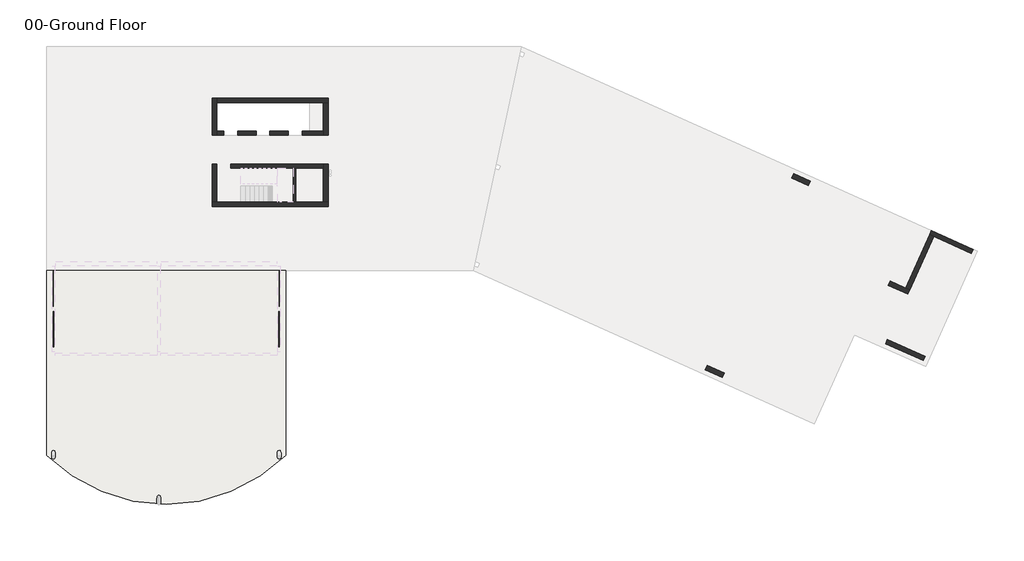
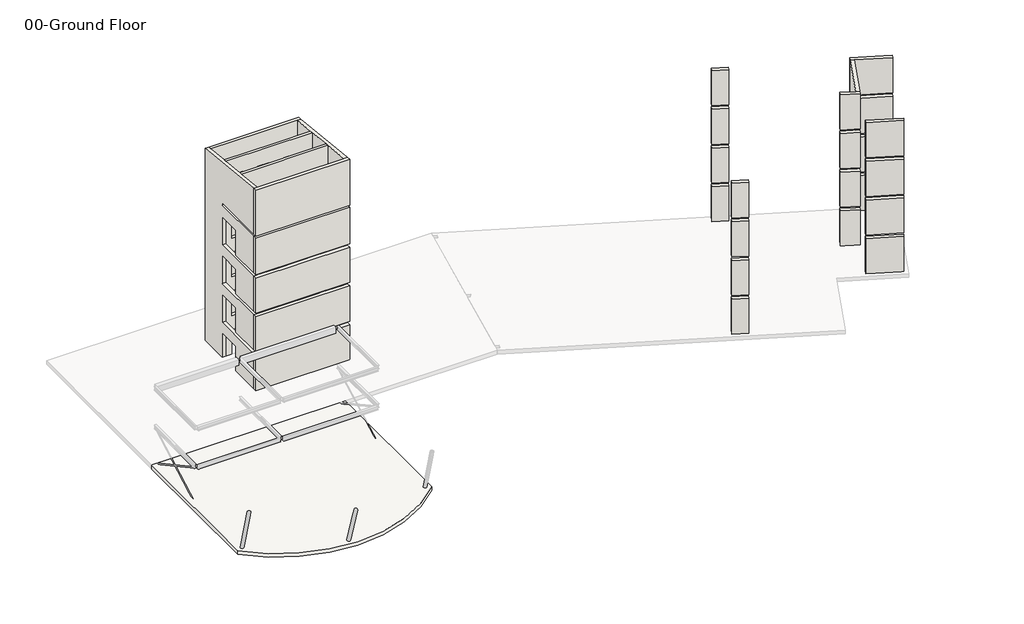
# One storey, part 1 of 2: 13 walls, 1 slab.
"""IFC4 building model written with IfcOpenShell, lengths in millimetres."""

from ifc_helpers import new_model, si_unit, frame, origin, origin_with_axes, place, context, project, spatial, polyline, circle_curve, outline, extrude, faceted_brep, element, save
from ifc_brep_helpers import plane_surface, cylinder_surface, advanced_brep

model = new_model("IFC4")

# Units and contexts
model_context = context("Model", 3, world=origin())
ifc_project = project(units=[si_unit("LENGTHUNIT", "METRE", prefix="MILLI")], contexts=[model_context])

# Site, building, storey
site = spatial("IfcSite", under=ifc_project)
building = spatial("IfcBuilding", under=site)
storey = spatial("IfcBuildingStorey", under=building, Name="00-Ground Floor", Elevation=0.0)

# Slab
placement = place(None, origin())
element("IfcSlab", 1, ObjectType="RC Slab 12\"", at=placement, inside=storey, context=model_context, shape_type="AdvancedBrep", body=[
    advanced_brep(
    [(15455.9, -26723.3402351, -304.8), (-457.2, -26723.3402351, -304.8), (-457.2, -14452.6, -304.8), (457.2, -14452.6, -304.8), (14541.5, -14452.6, -304.8), (15455.9, -14452.6, -304.8), (15455.9, -26723.3402351, 0.0), (15455.9, -14452.6, 0.0), (-457.2, -14452.6, 0.0), (-457.2, -26723.3402351, 0.0)],
    [
        (0, 1, circle_curve(frame((7499.35, -18686.6508475, -304.8), z_axis=(0.0, 0.0, -1.0), x_axis=(1.0, 0.0, 0.0)), 11309.0699979)),
        (1, 2),
        (2, 3),
        (3, 4),
        (4, 5),
        (5, 0),
        (6, 7),
        (7, 8),
        (8, 9),
        (9, 6, circle_curve(frame((7499.35, -18686.6508475, 0.0), z_axis=(0.0, 0.0, 1.0), x_axis=(1.0, 0.0, 0.0)), 11309.0699979)),
        (0, 6),
        (9, 1),
        (8, 2),
        (7, 5),
    ],
    [
        plane_surface(frame((18808.4199979, -18686.6508475, -304.8), z_axis=(0.0, 0.0, -1.0), x_axis=(0.0, -1.0, 0.0))),
        plane_surface(frame((18808.4199979, -18686.6508475, 0.0), z_axis=(0.0, 0.0, 1.0), x_axis=(0.0, 1.0, 0.0))),
        cylinder_surface(frame((7499.35, -18686.6508475, 0.0), z_axis=(0.0, 0.0, -1.0), x_axis=(1.0, 0.0, 0.0)), 11309.0699979),
        plane_surface(frame((-457.2, -26723.3402351, -304.8), z_axis=(-1.0, 0.0, 0.0), x_axis=(0.0, 0.0, 1.0))),
        plane_surface(frame((-457.2, -14452.6, -304.8), z_axis=(0.0, 1.0, 0.0), x_axis=(0.0, 0.0, 1.0))),
        plane_surface(frame((15455.9, -14452.6, -304.8), z_axis=(1.0, 0.0, 0.0), x_axis=(0.0, 0.0, 1.0))),
    ],
    [
        (0, [[1, 2, 3, 4, 5, 6]]),
        (1, [[7, 8, 9, 10]]),
        (2, [[-1, 11, -10, 12]]),
        (3, [[-2, -12, -9, 13]]),
        (4, [[-5, -4, -3, -13, -8, 14]]),
        (5, [[-6, -14, -7, -11]]),
    ],
),
])

# Walls
element("IfcWall", 2, ObjectType="6\" Blockwork with render", at=placement, inside=storey, context=model_context, shape_type="SweptSolid", body=[
    extrude(outline(polyline([(16103.6, -7632.7), (16103.6, -9893.3), (15951.2, -9893.3), (15951.2, -7632.7), (16103.6, -7632.7)])), origin_with_axes(), (0.0, 0.0, 1.0), 3048.0),
])
element("IfcWall", 3, ObjectType="RC Wall 10\"", at=placement, inside=storey, context=model_context, shape_type="Brep", body=[
    faceted_brep([(17945.1, -5422.9, 16899.0824764), (10858.5, -5422.9, 16899.0824764), (10858.5, -5422.9, 13411.2), (10858.5, -5422.9, 13208.0), (10858.5, -5422.9, 12192.0), (10858.5, -5422.9, 10058.4), (10858.5, -5422.9, 9753.6), (10858.5, -5422.9, 8839.2), (10858.5, -5422.9, 6705.6), (10858.5, -5422.9, 6400.8), (10858.5, -5422.9, 5486.4), (10858.5, -5422.9, 3352.8), (10858.5, -5422.9, 3048.0), (10858.5, -5422.9, 2133.6), (10858.5, -5422.9, 0.0), (11328.4, -5422.9, 0.0), (11328.4, -5422.9, 2133.6), (12242.8, -5422.9, 2133.6), (12242.8, -5422.9, 0.0), (13474.7, -5422.9, 0.0), (13474.7, -5422.9, 2133.6), (14389.1, -5422.9, 2133.6), (14389.1, -5422.9, 0.0), (15608.3, -5422.9, 0.0), (15608.3, -5422.9, 2133.6), (16522.7, -5422.9, 2133.6), (16522.7, -5422.9, 0.0), (17945.1, -5422.9, 0.0), (17945.1, -5422.9, 2133.6), (17945.1, -5422.9, 3048.0), (17005.3, -5422.9, 3048.0), (17005.3, -5422.9, 3352.8), (17945.1, -5422.9, 3352.8), (17945.1, -5422.9, 5486.4), (17945.1, -5422.9, 6400.8), (17005.3, -5422.9, 6400.8), (17005.3, -5422.9, 6705.6), (17945.1, -5422.9, 6705.6), (17945.1, -5422.9, 8839.2), (17945.1, -5422.9, 9753.6), (17005.3, -5422.9, 9753.6), (17005.3, -5422.9, 10058.4), (17945.1, -5422.9, 10058.4), (17945.1, -5422.9, 12192.0), (17945.1, -5422.9, 13208.0), (17005.3, -5422.9, 13208.0), (17005.3, -5422.9, 13411.2), (17945.1, -5422.9, 13411.2), (17945.1, -5422.9, 15544.8), (15608.3, -5422.9, 3352.8), (15608.3, -5422.9, 5486.4), (16522.7, -5422.9, 5486.4), (16522.7, -5422.9, 3352.8), (13474.7, -5422.9, 3352.8), (13474.7, -5422.9, 5486.4), (14389.1, -5422.9, 5486.4), (14389.1, -5422.9, 3352.8), (11328.4, -5422.9, 3352.8), (11328.4, -5422.9, 5486.4), (12242.8, -5422.9, 5486.4), (12242.8, -5422.9, 3352.8), (15608.3, -5422.9, 6705.6), (15608.3, -5422.9, 8839.2), (16522.7, -5422.9, 8839.2), (16522.7, -5422.9, 6705.6), (13474.7, -5422.9, 6705.6), (13474.7, -5422.9, 8839.2), (14389.1, -5422.9, 8839.2), (14389.1, -5422.9, 6705.6), (11328.4, -5422.9, 6705.6), (11328.4, -5422.9, 8839.2), (12242.8, -5422.9, 8839.2), (12242.8, -5422.9, 6705.6), (15608.3, -5422.9, 10058.4), (15608.3, -5422.9, 12192.0), (16522.7, -5422.9, 12192.0), (16522.7, -5422.9, 10058.4), (13474.7, -5422.9, 10058.4), (13474.7, -5422.9, 12192.0), (14389.1, -5422.9, 12192.0), (14389.1, -5422.9, 10058.4), (11328.4, -5422.9, 10058.4), (11328.4, -5422.9, 12192.0), (12242.8, -5422.9, 12192.0), (12242.8, -5422.9, 10058.4), (15608.3, -5422.9, 13411.2), (15608.3, -5422.9, 15544.8), (16522.7, -5422.9, 15544.8), (16522.7, -5422.9, 13411.2), (13474.7, -5422.9, 13411.2), (13474.7, -5422.9, 15544.8), (14389.1, -5422.9, 15544.8), (14389.1, -5422.9, 13411.2), (11328.4, -5422.9, 13411.2), (11328.4, -5422.9, 15544.8), (12242.8, -5422.9, 15544.8), (12242.8, -5422.9, 13411.2), (10858.5, -5168.9, 0.0), (10858.5, -5168.9, 16872.3860006), (12738.1, -5168.9, 16872.3860006), (12992.1, -5168.9, 16872.3860006), (14871.7, -5168.9, 16872.3860006), (15125.7, -5168.9, 16872.3860006), (17945.1, -5168.9, 16872.3860006), (17945.1, -5168.9, 13411.2), (17005.3, -5168.9, 13411.2), (17005.3, -5168.9, 13208.0), (17945.1, -5168.9, 13208.0), (17945.1, -5168.9, 10058.4), (17005.3, -5168.9, 10058.4), (17005.3, -5168.9, 9753.6), (17945.1, -5168.9, 9753.6), (17945.1, -5168.9, 6705.6), (17005.3, -5168.9, 6705.6), (17005.3, -5168.9, 6400.8), (17945.1, -5168.9, 6400.8), (17945.1, -5168.9, 3352.8), (17005.3, -5168.9, 3352.8), (17005.3, -5168.9, 3048.0), (17945.1, -5168.9, 3048.0), (17945.1, -5168.9, 0.0), (16522.7, -5168.9, 0.0), (16522.7, -5168.9, 2133.6), (15608.3, -5168.9, 2133.6), (15608.3, -5168.9, 0.0), (14389.1, -5168.9, 0.0), (14389.1, -5168.9, 2133.6), (13474.7, -5168.9, 2133.6), (13474.7, -5168.9, 0.0), (12242.8, -5168.9, 0.0), (12242.8, -5168.9, 2133.6), (11328.4, -5168.9, 2133.6), (11328.4, -5168.9, 0.0), (15608.3, -5168.9, 5486.4), (15608.3, -5168.9, 3352.8), (16522.7, -5168.9, 3352.8), (16522.7, -5168.9, 5486.4), (13474.7, -5168.9, 5486.4), (13474.7, -5168.9, 3352.8), (14389.1, -5168.9, 3352.8), (14389.1, -5168.9, 5486.4), (11328.4, -5168.9, 5486.4), (11328.4, -5168.9, 3352.8), (12242.8, -5168.9, 3352.8), (12242.8, -5168.9, 5486.4), (15608.3, -5168.9, 8839.2), (15608.3, -5168.9, 6705.6), (16522.7, -5168.9, 6705.6), (16522.7, -5168.9, 8839.2), (13474.7, -5168.9, 8839.2), (13474.7, -5168.9, 6705.6), (14389.1, -5168.9, 6705.6), (14389.1, -5168.9, 8839.2), (11328.4, -5168.9, 8839.2), (11328.4, -5168.9, 6705.6), (12242.8, -5168.9, 6705.6), (12242.8, -5168.9, 8839.2), (15608.3, -5168.9, 12192.0), (15608.3, -5168.9, 10058.4), (16522.7, -5168.9, 10058.4), (16522.7, -5168.9, 12192.0), (13474.7, -5168.9, 12192.0), (13474.7, -5168.9, 10058.4), (14389.1, -5168.9, 10058.4), (14389.1, -5168.9, 12192.0), (11328.4, -5168.9, 12192.0), (11328.4, -5168.9, 10058.4), (12242.8, -5168.9, 10058.4), (12242.8, -5168.9, 12192.0), (15608.3, -5168.9, 15544.8), (15608.3, -5168.9, 13411.2), (16522.7, -5168.9, 13411.2), (16522.7, -5168.9, 15544.8), (13474.7, -5168.9, 15544.8), (13474.7, -5168.9, 13411.2), (14389.1, -5168.9, 13411.2), (14389.1, -5168.9, 15544.8), (11328.4, -5168.9, 15544.8), (11328.4, -5168.9, 13411.2), (12242.8, -5168.9, 13411.2), (12242.8, -5168.9, 15544.8)], [[[0, 1, 2, 3, 4, 5, 6, 7, 8, 9, 10, 11, 12, 13, 14, 15, 16, 17, 18, 19, 20, 21, 22, 23, 24, 25, 26, 27, 28, 29, 30, 31, 32, 33, 34, 35, 36, 37, 38, 39, 40, 41, 42, 43, 44, 45, 46, 47, 48], [49, 50, 51, 52], [53, 54, 55, 56], [57, 58, 59, 60], [61, 62, 63, 64], [65, 66, 67, 68], [69, 70, 71, 72], [73, 74, 75, 76], [77, 78, 79, 80], [81, 82, 83, 84], [85, 86, 87, 88], [89, 90, 91, 92], [93, 94, 95, 96]], [[97, 98, 99, 100, 101, 102, 103, 104, 105, 106, 107, 108, 109, 110, 111, 112, 113, 114, 115, 116, 117, 118, 119, 120, 121, 122, 123, 124, 125, 126, 127, 128, 129, 130, 131, 132], [133, 134, 135, 136], [137, 138, 139, 140], [141, 142, 143, 144], [145, 146, 147, 148], [149, 150, 151, 152], [153, 154, 155, 156], [157, 158, 159, 160], [161, 162, 163, 164], [165, 166, 167, 168], [169, 170, 171, 172], [173, 174, 175, 176], [177, 178, 179, 180]], [[14, 97, 132, 15]], [[120, 27, 26, 121]], [[18, 129, 128, 19]], [[22, 125, 124, 23]], [[98, 97, 14, 13, 12, 11, 10, 9, 8, 7, 6, 5, 4, 3, 2, 1]], [[27, 120, 119, 29, 28]], [[103, 0, 48, 47, 104]], [[107, 44, 43, 42, 108]], [[111, 39, 38, 37, 112]], [[115, 34, 33, 32, 116]], [[1, 0, 103, 102, 101, 100, 99, 98]], [[132, 131, 16, 15]], [[130, 129, 18, 17]], [[131, 130, 17, 16]], [[128, 127, 20, 19]], [[126, 125, 22, 21]], [[127, 126, 21, 20]], [[124, 123, 24, 23]], [[122, 121, 26, 25]], [[123, 122, 25, 24]], [[134, 133, 50, 49]], [[135, 134, 49, 52]], [[136, 135, 52, 51]], [[133, 136, 51, 50]], [[138, 137, 54, 53]], [[139, 138, 53, 56]], [[140, 139, 56, 55]], [[137, 140, 55, 54]], [[142, 141, 58, 57]], [[143, 142, 57, 60]], [[144, 143, 60, 59]], [[141, 144, 59, 58]], [[146, 145, 62, 61]], [[147, 146, 61, 64]], [[148, 147, 64, 63]], [[145, 148, 63, 62]], [[150, 149, 66, 65]], [[151, 150, 65, 68]], [[152, 151, 68, 67]], [[149, 152, 67, 66]], [[154, 153, 70, 69]], [[155, 154, 69, 72]], [[156, 155, 72, 71]], [[153, 156, 71, 70]], [[158, 157, 74, 73]], [[159, 158, 73, 76]], [[160, 159, 76, 75]], [[157, 160, 75, 74]], [[162, 161, 78, 77]], [[163, 162, 77, 80]], [[164, 163, 80, 79]], [[161, 164, 79, 78]], [[166, 165, 82, 81]], [[167, 166, 81, 84]], [[168, 167, 84, 83]], [[165, 168, 83, 82]], [[170, 169, 86, 85]], [[171, 170, 85, 88]], [[172, 171, 88, 87]], [[169, 172, 87, 86]], [[174, 173, 90, 89]], [[175, 174, 89, 92]], [[176, 175, 92, 91]], [[173, 176, 91, 90]], [[178, 177, 94, 93]], [[179, 178, 93, 96]], [[180, 179, 96, 95]], [[177, 180, 95, 94]], [[106, 45, 44, 107]], [[46, 105, 104, 47]], [[45, 106, 105, 46]], [[110, 40, 39, 111]], [[41, 109, 108, 42]], [[40, 110, 109, 41]], [[114, 35, 34, 115]], [[36, 113, 112, 37]], [[35, 114, 113, 36]], [[118, 30, 29, 119]], [[31, 117, 116, 32]], [[30, 118, 117, 31]]]),
])
element("IfcWall", 4, ObjectType="RC Wall 10\"", at=placement, inside=storey, context=model_context, shape_type="Brep", body=[
    faceted_brep([(17945.1, -7632.7, 17131.3418155), (10858.5, -7632.7, 17131.3418155), (10858.5, -7632.7, 15544.8), (11772.9, -7632.7, 15544.8), (11772.9, -7632.7, 13411.2), (15951.2, -7632.7, 13411.2), (16103.6, -7632.7, 13411.2), (17945.1, -7632.7, 13411.2), (10858.5, -7378.7, 17104.6453397), (17945.1, -7378.7, 17104.6453397), (17945.1, -7378.7, 15544.8), (17945.1, -7378.7, 13411.2), (11772.9, -7378.7, 13411.2), (11772.9, -7378.7, 15544.8), (10858.5, -7378.7, 15544.8)], [[[0, 1, 2, 3, 4, 5, 6, 7]], [[8, 9, 10, 11, 12, 13, 14]], [[1, 8, 14, 2]], [[9, 0, 7, 11, 10]], [[1, 0, 9, 8]], [[13, 12, 4, 3]], [[14, 13, 3, 2]], [[7, 6, 5, 4, 12, 11]]]),
    faceted_brep([(11772.9, -7632.7, 0.0), (15951.2, -7632.7, 0.0), (16103.6, -7632.7, 0.0), (17945.1, -7632.7, 0.0), (17945.1, -7632.7, 13208.0), (16103.6, -7632.7, 13208.0), (15951.2, -7632.7, 13208.0), (10858.5, -7632.7, 13208.0), (10858.5, -7632.7, 12192.0), (11772.9, -7632.7, 12192.0), (11772.9, -7632.7, 10058.4), (10858.5, -7632.7, 10058.4), (10858.5, -7632.7, 8839.2), (11772.9, -7632.7, 8839.2), (11772.9, -7632.7, 6705.6), (10858.5, -7632.7, 6705.6), (10858.5, -7632.7, 5486.4), (11772.9, -7632.7, 5486.4), (11772.9, -7632.7, 3352.8), (10858.5, -7632.7, 3352.8), (10858.5, -7632.7, 2133.6), (11772.9, -7632.7, 2133.6), (17945.1, -7378.7, 0.0), (11772.9, -7378.7, 0.0), (11772.9, -7378.7, 2133.6), (10858.5, -7378.7, 2133.6), (10858.5, -7378.7, 3352.8), (11772.9, -7378.7, 3352.8), (11772.9, -7378.7, 5486.4), (10858.5, -7378.7, 5486.4), (10858.5, -7378.7, 6705.6), (11772.9, -7378.7, 6705.6), (11772.9, -7378.7, 8839.2), (10858.5, -7378.7, 8839.2), (10858.5, -7378.7, 10058.4), (11772.9, -7378.7, 10058.4), (11772.9, -7378.7, 12192.0), (10858.5, -7378.7, 12192.0), (10858.5, -7378.7, 13208.0), (17945.1, -7378.7, 13208.0), (17945.1, -7378.7, 12192.0), (17945.1, -7378.7, 10058.4), (17945.1, -7378.7, 8839.2), (17945.1, -7378.7, 6705.6), (17945.1, -7378.7, 5486.4), (17945.1, -7378.7, 3352.8), (17945.1, -7378.7, 2133.6)], [[[0, 1, 2, 3, 4, 5, 6, 7, 8, 9, 10, 11, 12, 13, 14, 15, 16, 17, 18, 19, 20, 21]], [[22, 23, 24, 25, 26, 27, 28, 29, 30, 31, 32, 33, 34, 35, 36, 37, 38, 39, 40, 41, 42, 43, 44, 45, 46]], [[22, 3, 2, 1, 0, 23]], [[25, 20, 19, 26]], [[29, 16, 15, 30]], [[33, 12, 11, 34]], [[37, 8, 7, 38]], [[3, 22, 46, 45, 44, 43, 42, 41, 40, 39, 4]], [[21, 24, 23, 0]], [[24, 21, 20, 25]], [[27, 26, 19, 18]], [[28, 27, 18, 17]], [[29, 28, 17, 16]], [[31, 30, 15, 14]], [[32, 31, 14, 13]], [[33, 32, 13, 12]], [[35, 34, 11, 10]], [[36, 35, 10, 9]], [[37, 36, 9, 8]], [[7, 6, 5, 4, 39, 38]]]),
])
element("IfcWall", 5, ObjectType="RC Wall 12\"", at=placement, inside=storey, context=model_context, shape_type="Brep", body=[
    faceted_brep([(18249.9, -9893.3, 0.0), (17945.1, -9893.3, 0.0), (16103.6, -9893.3, 0.0), (15951.2, -9893.3, 0.0), (10858.5, -9893.3, 0.0), (10553.7, -9893.3, 0.0), (10553.7, -9893.3, 3048.0), (10858.5, -9893.3, 3048.0), (12446.0, -9893.3, 3048.0), (15951.2, -9893.3, 3048.0), (16103.6, -9893.3, 3048.0), (17945.1, -9893.3, 3048.0), (18249.9, -9893.3, 3048.0), (10553.7, -10198.1, 0.0), (18249.9, -10198.1, 0.0), (18249.9, -10198.1, 3048.0), (10553.7, -10198.1, 3048.0)], [[[0, 1, 2, 3, 4, 5, 6, 7, 8, 9, 10, 11, 12]], [[13, 14, 15, 16]], [[5, 4, 3, 2, 1, 0, 14, 13]], [[5, 13, 16, 6]], [[14, 0, 12, 15]], [[8, 7, 6, 16, 15, 12, 11, 10, 9]]]),
    faceted_brep([(10553.7, -9893.3, 17368.9404497), (10858.5, -9893.3, 17368.9404497), (17945.1, -9893.3, 17368.9404497), (18249.9, -9893.3, 17368.9404497), (18249.9, -9893.3, 13411.2), (17945.1, -9893.3, 13411.2), (16103.6, -9893.3, 13411.2), (15951.2, -9893.3, 13411.2), (12446.0, -9893.3, 13411.2), (10858.5, -9893.3, 13411.2), (10553.7, -9893.3, 13411.2), (18249.9, -10198.1, 17400.9762206), (10553.7, -10198.1, 17400.9762206), (10553.7, -10198.1, 13411.2), (18249.9, -10198.1, 13411.2)], [[[0, 1, 2, 3, 4, 5, 6, 7, 8, 9, 10]], [[11, 12, 13, 14]], [[12, 0, 10, 13]], [[3, 11, 14, 4]], [[3, 2, 1, 0, 12, 11]], [[10, 9, 8, 7, 6, 5, 4, 14, 13]]]),
    faceted_brep([(10553.7, -9893.3, 13208.0), (10858.5, -9893.3, 13208.0), (12446.0, -9893.3, 13208.0), (15951.2, -9893.3, 13208.0), (16103.6, -9893.3, 13208.0), (17945.1, -9893.3, 13208.0), (18249.9, -9893.3, 13208.0), (18249.9, -9893.3, 10058.4), (17945.1, -9893.3, 10058.4), (16103.6, -9893.3, 10058.4), (15951.2, -9893.3, 10058.4), (12446.0, -9893.3, 10058.4), (10858.5, -9893.3, 10058.4), (10553.7, -9893.3, 10058.4), (18249.9, -10198.1, 13208.0), (10553.7, -10198.1, 13208.0), (10553.7, -10198.1, 10058.4), (18249.9, -10198.1, 10058.4)], [[[0, 1, 2, 3, 4, 5, 6, 7, 8, 9, 10, 11, 12, 13]], [[14, 15, 16, 17]], [[15, 0, 13, 16]], [[6, 14, 17, 7]], [[2, 1, 0, 15, 14, 6, 5, 4, 3]], [[13, 12, 11, 10, 9, 8, 7, 17, 16]]]),
    faceted_brep([(10553.7, -9893.3, 9753.6), (10858.5, -9893.3, 9753.6), (12446.0, -9893.3, 9753.6), (15951.2, -9893.3, 9753.6), (16103.6, -9893.3, 9753.6), (17945.1, -9893.3, 9753.6), (18249.9, -9893.3, 9753.6), (18249.9, -9893.3, 6705.6), (17945.1, -9893.3, 6705.6), (16103.6, -9893.3, 6705.6), (15951.2, -9893.3, 6705.6), (12446.0, -9893.3, 6705.6), (10858.5, -9893.3, 6705.6), (10553.7, -9893.3, 6705.6), (18249.9, -10198.1, 9753.6), (10553.7, -10198.1, 9753.6), (10553.7, -10198.1, 6705.6), (18249.9, -10198.1, 6705.6)], [[[0, 1, 2, 3, 4, 5, 6, 7, 8, 9, 10, 11, 12, 13]], [[14, 15, 16, 17]], [[15, 0, 13, 16]], [[6, 14, 17, 7]], [[2, 1, 0, 15, 14, 6, 5, 4, 3]], [[13, 12, 11, 10, 9, 8, 7, 17, 16]]]),
    faceted_brep([(10553.7, -9893.3, 6400.8), (10858.5, -9893.3, 6400.8), (12446.0, -9893.3, 6400.8), (15951.2, -9893.3, 6400.8), (16103.6, -9893.3, 6400.8), (17945.1, -9893.3, 6400.8), (18249.9, -9893.3, 6400.8), (18249.9, -9893.3, 3352.8), (17945.1, -9893.3, 3352.8), (16103.6, -9893.3, 3352.8), (15951.2, -9893.3, 3352.8), (12446.0, -9893.3, 3352.8), (10858.5, -9893.3, 3352.8), (10553.7, -9893.3, 3352.8), (18249.9, -10198.1, 6400.8), (10553.7, -10198.1, 6400.8), (10553.7, -10198.1, 3352.8), (18249.9, -10198.1, 3352.8)], [[[0, 1, 2, 3, 4, 5, 6, 7, 8, 9, 10, 11, 12, 13]], [[14, 15, 16, 17]], [[15, 0, 13, 16]], [[6, 14, 17, 7]], [[2, 1, 0, 15, 14, 6, 5, 4, 3]], [[13, 12, 11, 10, 9, 8, 7, 17, 16]]]),
])
element("IfcWall", 6, ObjectType="RC Wall 12\"", at=placement, inside=storey, context=model_context, shape_type="Brep", body=[
    faceted_brep([(10858.5, -2984.5, 16642.7963091), (10858.5, -3289.3, 16674.83208), (10858.5, -5168.9, 16872.3860006), (10858.5, -5422.9, 16899.0824764), (10858.5, -7378.7, 17104.6453397), (10858.5, -7632.7, 17131.3418155), (10858.5, -9893.3, 17368.9404497), (10858.5, -9893.3, 13411.2), (10858.5, -5422.9, 13411.2), (10858.5, -5422.9, 13208.0), (10858.5, -9893.3, 13208.0), (10858.5, -9893.3, 10058.4), (10858.5, -7378.7, 10058.4), (10858.5, -7378.7, 12192.0), (10858.5, -5422.9, 12192.0), (10858.5, -5422.9, 9753.6), (10858.5, -9893.3, 9753.6), (10858.5, -9893.3, 6705.6), (10858.5, -7378.7, 6705.6), (10858.5, -7378.7, 8839.2), (10858.5, -5422.9, 8839.2), (10858.5, -5422.9, 6400.8), (10858.5, -9893.3, 6400.8), (10858.5, -9893.3, 3352.8), (10858.5, -7378.7, 3352.8), (10858.5, -7378.7, 5486.4), (10858.5, -5422.9, 5486.4), (10858.5, -5422.9, 3048.0), (10858.5, -9893.3, 3048.0), (10858.5, -9893.3, 0.0), (10858.5, -7378.7, 0.0), (10858.5, -7378.7, 2133.6), (10858.5, -5422.9, 2133.6), (10858.5, -5422.9, 0.0), (10858.5, -5168.9, 0.0), (10858.5, -3289.3, 0.0), (10858.5, -2984.5, 0.0), (10858.5, -2984.5, 3048.0), (10858.5, -2984.5, 3352.8), (10858.5, -2984.5, 6400.8), (10858.5, -2984.5, 6705.6), (10858.5, -2984.5, 9753.6), (10858.5, -2984.5, 10058.4), (10553.7, -9893.3, 17368.9404497), (10553.7, -2984.5, 16642.7963091), (10553.7, -2984.5, 10058.4), (10553.7, -2984.5, 9753.6), (10553.7, -2984.5, 6705.6), (10553.7, -2984.5, 6400.8), (10553.7, -2984.5, 3352.8), (10553.7, -2984.5, 3048.0), (10553.7, -2984.5, 0.0), (10553.7, -5422.9, 0.0), (10553.7, -5422.9, 2133.6), (10553.7, -7378.7, 2133.6), (10553.7, -7378.7, 0.0), (10553.7, -9893.3, 0.0), (10553.7, -9893.3, 3048.0), (10553.7, -5422.9, 3048.0), (10553.7, -5422.9, 3352.8), (10553.7, -5422.9, 5486.4), (10553.7, -7378.7, 5486.4), (10553.7, -7378.7, 3352.8), (10553.7, -9893.3, 3352.8), (10553.7, -9893.3, 6400.8), (10553.7, -5422.9, 6400.8), (10553.7, -5422.9, 6705.6), (10553.7, -5422.9, 8839.2), (10553.7, -7378.7, 8839.2), (10553.7, -7378.7, 6705.6), (10553.7, -9893.3, 6705.6), (10553.7, -9893.3, 9753.6), (10553.7, -5422.9, 9753.6), (10553.7, -5422.9, 10058.4), (10553.7, -5422.9, 12192.0), (10553.7, -7378.7, 12192.0), (10553.7, -7378.7, 10058.4), (10553.7, -9893.3, 10058.4), (10553.7, -9893.3, 13208.0), (10553.7, -5422.9, 13208.0), (10553.7, -5422.9, 13411.2), (10553.7, -9893.3, 13411.2)], [[[0, 1, 2, 3, 4, 5, 6, 7, 8, 9, 10, 11, 12, 13, 14, 15, 16, 17, 18, 19, 20, 21, 22, 23, 24, 25, 26, 27, 28, 29, 30, 31, 32, 33, 34, 35, 36, 37, 38, 39, 40, 41, 42]], [[43, 44, 45, 46, 47, 48, 49, 50, 51, 52, 53, 54, 55, 56, 57, 58, 59, 60, 61, 62, 63, 64, 65, 66, 67, 68, 69, 70, 71, 72, 73, 74, 75, 76, 77, 78, 79, 80, 81]], [[29, 56, 55, 30]], [[51, 36, 35, 34, 33, 52]], [[56, 29, 28, 57]], [[6, 43, 81, 7]], [[10, 78, 77, 11]], [[16, 71, 70, 17]], [[22, 64, 63, 23]], [[36, 51, 50, 49, 48, 47, 46, 45, 44, 0, 42, 41, 40, 39, 38, 37]], [[6, 5, 4, 3, 2, 1, 0, 44, 43]], [[33, 32, 53, 52]], [[31, 30, 55, 54]], [[32, 31, 54, 53]], [[26, 60, 59, 58, 27]], [[25, 24, 62, 61]], [[26, 25, 61, 60]], [[20, 67, 66, 65, 21]], [[19, 18, 69, 68]], [[20, 19, 68, 67]], [[14, 74, 73, 72, 15]], [[13, 12, 76, 75]], [[14, 13, 75, 74]], [[9, 79, 78, 10]], [[80, 8, 7, 81]], [[79, 9, 8, 80]], [[15, 72, 71, 16]], [[12, 11, 77, 76]], [[21, 65, 64, 22]], [[18, 17, 70, 69]], [[27, 58, 57, 28]], [[24, 23, 63, 62]]]),
])
element("IfcWall", 7, ObjectType="RC Wall 12\"", at=placement, inside=storey, context=model_context, shape_type="Brep", body=[
    faceted_brep([(10858.5, -3289.3, 0.0), (17945.1, -3289.3, 0.0), (18249.9, -3289.3, 0.0), (18249.9, -3289.3, 3048.0), (17945.1, -3289.3, 3048.0), (17005.3, -3289.3, 3048.0), (17005.3, -3289.3, 3352.8), (17945.1, -3289.3, 3352.8), (18249.9, -3289.3, 3352.8), (18249.9, -3289.3, 6400.8), (17945.1, -3289.3, 6400.8), (17005.3, -3289.3, 6400.8), (17005.3, -3289.3, 6705.6), (17945.1, -3289.3, 6705.6), (18249.9, -3289.3, 6705.6), (18249.9, -3289.3, 9753.6), (17945.1, -3289.3, 9753.6), (17005.3, -3289.3, 9753.6), (17005.3, -3289.3, 10058.4), (17945.1, -3289.3, 10058.4), (18249.9, -3289.3, 10058.4), (18249.9, -3289.3, 13208.0), (17945.1, -3289.3, 13208.0), (17005.3, -3289.3, 13208.0), (17005.3, -3289.3, 13411.2), (17945.1, -3289.3, 13411.2), (18249.9, -3289.3, 13411.2), (18249.9, -3289.3, 16674.83208), (17945.1, -3289.3, 16674.83208), (15125.7, -3289.3, 16674.83208), (14871.7, -3289.3, 16674.83208), (12992.1, -3289.3, 16674.83208), (12738.1, -3289.3, 16674.83208), (10858.5, -3289.3, 16674.83208), (18249.9, -2984.5, 0.0), (10858.5, -2984.5, 0.0), (10858.5, -2984.5, 3048.0), (10858.5, -2984.5, 3352.8), (10858.5, -2984.5, 6400.8), (10858.5, -2984.5, 6705.6), (10858.5, -2984.5, 9753.6), (10858.5, -2984.5, 10058.4), (10858.5, -2984.5, 16642.7963091), (18249.9, -2984.5, 16642.7963091), (18249.9, -2984.5, 13411.2), (17005.3, -2984.5, 13411.2), (17005.3, -2984.5, 13208.0), (18249.9, -2984.5, 13208.0), (18249.9, -2984.5, 10058.4), (17005.3, -2984.5, 10058.4), (17005.3, -2984.5, 9753.6), (18249.9, -2984.5, 9753.6), (18249.9, -2984.5, 6705.6), (17005.3, -2984.5, 6705.6), (17005.3, -2984.5, 6400.8), (18249.9, -2984.5, 6400.8), (18249.9, -2984.5, 3352.8), (17005.3, -2984.5, 3352.8), (17005.3, -2984.5, 3048.0), (18249.9, -2984.5, 3048.0)], [[[0, 1, 2, 3, 4, 5, 6, 7, 8, 9, 10, 11, 12, 13, 14, 15, 16, 17, 18, 19, 20, 21, 22, 23, 24, 25, 26, 27, 28, 29, 30, 31, 32, 33]], [[34, 35, 36, 37, 38, 39, 40, 41, 42, 43, 44, 45, 46, 47, 48, 49, 50, 51, 52, 53, 54, 55, 56, 57, 58, 59]], [[2, 1, 0, 35, 34]], [[0, 33, 42, 41, 40, 39, 38, 37, 36, 35]], [[2, 34, 59, 3]], [[43, 27, 26, 44]], [[47, 21, 20, 48]], [[51, 15, 14, 52]], [[55, 9, 8, 56]], [[33, 32, 31, 30, 29, 28, 27, 43, 42]], [[46, 23, 22, 21, 47]], [[24, 45, 44, 26, 25]], [[23, 46, 45, 24]], [[50, 17, 16, 15, 51]], [[18, 49, 48, 20, 19]], [[17, 50, 49, 18]], [[54, 11, 10, 9, 55]], [[12, 53, 52, 14, 13]], [[11, 54, 53, 12]], [[58, 5, 4, 3, 59]], [[6, 57, 56, 8, 7]], [[5, 58, 57, 6]]]),
])
element("IfcWall", 8, ObjectType="RC Wall 12\"", at=placement, inside=storey, context=model_context, shape_type="Brep", body=[
    faceted_brep([(17945.1, -9893.3, 17368.9404497), (17945.1, -7632.7, 17131.3418155), (17945.1, -7378.7, 17104.6453397), (17945.1, -5422.9, 16899.0824764), (17945.1, -5168.9, 16872.3860006), (17945.1, -3289.3, 16674.83208), (17945.1, -3289.3, 13411.2), (17945.1, -5168.9, 13411.2), (17945.1, -5422.9, 13411.2), (17945.1, -5422.9, 15544.8), (17945.1, -7378.7, 15544.8), (17945.1, -7378.7, 13411.2), (17945.1, -7632.7, 13411.2), (17945.1, -9893.3, 13411.2), (18249.9, -3289.3, 16674.83208), (18249.9, -9893.3, 17368.9404497), (18249.9, -9893.3, 13411.2), (18249.9, -7378.7, 13411.2), (18249.9, -7378.7, 15544.8), (18249.9, -5422.9, 15544.8), (18249.9, -5422.9, 13411.2), (18249.9, -3289.3, 13411.2)], [[[0, 1, 2, 3, 4, 5, 6, 7, 8, 9, 10, 11, 12, 13]], [[14, 15, 16, 17, 18, 19, 20, 21]], [[15, 0, 13, 16]], [[5, 14, 21, 6]], [[5, 4, 3, 2, 1, 0, 15, 14]], [[21, 20, 8, 7, 6]], [[13, 12, 11, 17, 16]], [[20, 19, 9, 8]], [[18, 17, 11, 10]], [[19, 18, 10, 9]]]),
    faceted_brep([(17945.1, -5422.9, 0.0), (17945.1, -5422.9, 2133.6), (17945.1, -7378.7, 2133.6), (17945.1, -7378.7, 0.0), (17945.1, -7632.7, 0.0), (17945.1, -9893.3, 0.0), (17945.1, -9893.3, 3048.0), (17945.1, -5422.9, 3048.0), (17945.1, -5168.9, 3048.0), (17945.1, -3289.3, 3048.0), (17945.1, -3289.3, 0.0), (17945.1, -5168.9, 0.0), (18249.9, -5422.9, 2133.6), (18249.9, -5422.9, 0.0), (18249.9, -3289.3, 0.0), (18249.9, -3289.3, 3048.0), (18249.9, -9893.3, 3048.0), (18249.9, -9893.3, 0.0), (18249.9, -7378.7, 0.0), (18249.9, -7378.7, 2133.6)], [[[0, 1, 2, 3, 4, 5, 6, 7, 8, 9, 10, 11]], [[12, 13, 14, 15, 16, 17, 18, 19]], [[10, 14, 13, 0, 11]], [[17, 5, 4, 3, 18]], [[5, 17, 16, 6]], [[14, 10, 9, 15]], [[13, 12, 1, 0]], [[19, 18, 3, 2]], [[12, 19, 2, 1]], [[9, 8, 7, 6, 16, 15]]]),
    faceted_brep([(17945.1, -5422.9, 3352.8), (17945.1, -5422.9, 5486.4), (17945.1, -7378.7, 5486.4), (17945.1, -7378.7, 3352.8), (17945.1, -9893.3, 3352.8), (17945.1, -9893.3, 6400.8), (17945.1, -5422.9, 6400.8), (17945.1, -5168.9, 6400.8), (17945.1, -3289.3, 6400.8), (17945.1, -3289.3, 3352.8), (17945.1, -5168.9, 3352.8), (18249.9, -5422.9, 5486.4), (18249.9, -5422.9, 3352.8), (18249.9, -3289.3, 3352.8), (18249.9, -3289.3, 6400.8), (18249.9, -9893.3, 6400.8), (18249.9, -9893.3, 3352.8), (18249.9, -7378.7, 3352.8), (18249.9, -7378.7, 5486.4)], [[[0, 1, 2, 3, 4, 5, 6, 7, 8, 9, 10]], [[11, 12, 13, 14, 15, 16, 17, 18]], [[15, 5, 4, 16]], [[8, 14, 13, 9]], [[12, 11, 1, 0]], [[18, 17, 3, 2]], [[11, 18, 2, 1]], [[8, 7, 6, 5, 15, 14]], [[4, 3, 17, 16]], [[0, 10, 9, 13, 12]]]),
    faceted_brep([(17945.1, -5422.9, 6705.6), (17945.1, -5422.9, 8839.2), (17945.1, -7378.7, 8839.2), (17945.1, -7378.7, 6705.6), (17945.1, -9893.3, 6705.6), (17945.1, -9893.3, 9753.6), (17945.1, -5422.9, 9753.6), (17945.1, -5168.9, 9753.6), (17945.1, -3289.3, 9753.6), (17945.1, -3289.3, 6705.6), (17945.1, -5168.9, 6705.6), (18249.9, -5422.9, 8839.2), (18249.9, -5422.9, 6705.6), (18249.9, -3289.3, 6705.6), (18249.9, -3289.3, 9753.6), (18249.9, -9893.3, 9753.6), (18249.9, -9893.3, 6705.6), (18249.9, -7378.7, 6705.6), (18249.9, -7378.7, 8839.2)], [[[0, 1, 2, 3, 4, 5, 6, 7, 8, 9, 10]], [[11, 12, 13, 14, 15, 16, 17, 18]], [[15, 5, 4, 16]], [[8, 14, 13, 9]], [[12, 11, 1, 0]], [[18, 17, 3, 2]], [[11, 18, 2, 1]], [[8, 7, 6, 5, 15, 14]], [[4, 3, 17, 16]], [[0, 10, 9, 13, 12]]]),
    faceted_brep([(17945.1, -5422.9, 10058.4), (17945.1, -5422.9, 12192.0), (17945.1, -7378.7, 12192.0), (17945.1, -7378.7, 10058.4), (17945.1, -9893.3, 10058.4), (17945.1, -9893.3, 13208.0), (17945.1, -7632.7, 13208.0), (17945.1, -7378.7, 13208.0), (17945.1, -5422.9, 13208.0), (17945.1, -5168.9, 13208.0), (17945.1, -3289.3, 13208.0), (17945.1, -3289.3, 10058.4), (17945.1, -5168.9, 10058.4), (18249.9, -5422.9, 12192.0), (18249.9, -5422.9, 10058.4), (18249.9, -3289.3, 10058.4), (18249.9, -3289.3, 13208.0), (18249.9, -9893.3, 13208.0), (18249.9, -9893.3, 10058.4), (18249.9, -7378.7, 10058.4), (18249.9, -7378.7, 12192.0)], [[[0, 1, 2, 3, 4, 5, 6, 7, 8, 9, 10, 11, 12]], [[13, 14, 15, 16, 17, 18, 19, 20]], [[17, 5, 4, 18]], [[10, 16, 15, 11]], [[14, 13, 1, 0]], [[20, 19, 3, 2]], [[13, 20, 2, 1]], [[10, 9, 8, 7, 6, 5, 17, 16]], [[4, 3, 19, 18]], [[0, 12, 11, 15, 14]]]),
])
element("IfcWall", 9, ObjectType="RC Wall 12\"", at=placement, inside=storey, context=model_context, shape_type="SweptSolid", body=[
    extrude(outline(polyline([(44446.1024327, -21549.2360976), (43333.95414, -21049.6614634), (43458.8477985, -20771.6243902), (44570.9960912, -21271.1990244), (44446.1024327, -21549.2360976)])), origin_with_axes(), (0.0, 0.0, 1.0), 3048.0),
    extrude(outline(polyline([(44446.1024327, -21549.2360976), (43333.95414, -21049.6614634), (43458.8477985, -20771.6243902), (44570.9960912, -21271.1990244), (44446.1024327, -21549.2360976)])), frame((0.0, 0.0, 10058.4), z_axis=(0.0, 0.0, 1.0), x_axis=(1.0, 0.0, 0.0)), (0.0, 0.0, 1.0), 3048.0),
    extrude(outline(polyline([(44446.1024327, -21549.2360976), (43333.95414, -21049.6614634), (43458.8477985, -20771.6243902), (44570.9960912, -21271.1990244), (44446.1024327, -21549.2360976)])), frame((0.0, 0.0, 6705.6), z_axis=(0.0, 0.0, 1.0), x_axis=(1.0, 0.0, 0.0)), (0.0, 0.0, 1.0), 3048.0),
    extrude(outline(polyline([(44446.1024327, -21549.2360976), (43333.95414, -21049.6614634), (43458.8477985, -20771.6243902), (44570.9960912, -21271.1990244), (44446.1024327, -21549.2360976)])), frame((0.0, 0.0, 3352.8), z_axis=(0.0, 0.0, 1.0), x_axis=(1.0, 0.0, 0.0)), (0.0, 0.0, 1.0), 3048.0),
])
element("IfcWall", 10, ObjectType="RC Wall 12\"", at=placement, inside=storey, context=model_context, shape_type="SweptSolid", body=[
    extrude(outline(polyline([(50180.8029205, -8782.7004878), (49068.6546278, -8283.1258537), (49193.5482864, -8005.0887805), (50305.696579, -8504.6634146), (50180.8029205, -8782.7004878)])), origin_with_axes(), (0.0, 0.0, 1.0), 3048.0),
    extrude(outline(polyline([(50180.8029205, -8782.7004878), (49068.6546278, -8283.1258537), (49193.5482864, -8005.0887805), (50305.696579, -8504.6634146), (50180.8029205, -8782.7004878)])), frame((0.0, 0.0, 10058.4), z_axis=(0.0, 0.0, 1.0), x_axis=(1.0, 0.0, 0.0)), (0.0, 0.0, 1.0), 3048.0),
    extrude(outline(polyline([(50180.8029205, -8782.7004878), (49068.6546278, -8283.1258537), (49193.5482864, -8005.0887805), (50305.696579, -8504.6634146), (50180.8029205, -8782.7004878)])), frame((0.0, 0.0, 6705.6), z_axis=(0.0, 0.0, 1.0), x_axis=(1.0, 0.0, 0.0)), (0.0, 0.0, 1.0), 3048.0),
    extrude(outline(polyline([(50180.8029205, -8782.7004878), (49068.6546278, -8283.1258537), (49193.5482864, -8005.0887805), (50305.696579, -8504.6634146), (50180.8029205, -8782.7004878)])), frame((0.0, 0.0, 3352.8), z_axis=(0.0, 0.0, 1.0), x_axis=(1.0, 0.0, 0.0)), (0.0, 0.0, 1.0), 3048.0),
])
element("IfcWall", 11, ObjectType="RC Wall 12\"", at=placement, inside=storey, context=model_context, shape_type="Brep", body=[
    faceted_brep([(55480.1253608, -15435.8210954, 0.0), (56785.8662551, -16022.3571121, 0.0), (56785.8662551, -16022.3571121, 3048.0), (55480.1253608, -15435.8210954, 3048.0), (56910.7599136, -15744.3200389, 0.0), (56632.7228404, -15619.4263804, 0.0), (55605.0190193, -15157.7840222, 0.0), (55605.0190193, -15157.7840222, 3048.0), (56632.7228404, -15619.4263804, 3048.0), (56910.7599136, -15744.3200389, 3048.0)], [[[0, 1, 2, 3]], [[4, 5, 6, 7, 8, 9]], [[1, 0, 6, 5, 4]], [[6, 0, 3, 7]], [[1, 4, 9, 2]], [[3, 2, 9, 8, 7]]]),
    faceted_brep([(56785.8662551, -16022.3571121, 13106.4), (55480.1253608, -15435.8210954, 13106.4), (55480.1253608, -15435.8210954, 10058.4), (56785.8662551, -16022.3571121, 10058.4), (55605.0190193, -15157.7840222, 13106.4), (56632.7228404, -15619.4263804, 13106.4), (56910.7599136, -15744.3200389, 13106.4), (56910.7599136, -15744.3200389, 10058.4), (55605.0190193, -15157.7840222, 10058.4)], [[[0, 1, 2, 3]], [[4, 5, 6, 7, 8]], [[1, 4, 8, 2]], [[6, 0, 3, 7]], [[1, 0, 6, 5, 4]], [[3, 2, 8, 7]]]),
    faceted_brep([(56785.8662551, -16022.3571121, 9753.6), (55480.1253608, -15435.8210954, 9753.6), (55480.1253608, -15435.8210954, 6705.6), (56785.8662551, -16022.3571121, 6705.6), (55605.0190193, -15157.7840222, 9753.6), (56910.7599136, -15744.3200389, 9753.6), (56910.7599136, -15744.3200389, 6705.6), (56632.7228404, -15619.4263804, 6705.6), (55605.0190193, -15157.7840222, 6705.6)], [[[0, 1, 2, 3]], [[4, 5, 6, 7, 8]], [[1, 4, 8, 2]], [[5, 0, 3, 6]], [[1, 0, 5, 4]], [[3, 2, 8, 7, 6]]]),
    faceted_brep([(56785.8662551, -16022.3571121, 6400.8), (55480.1253608, -15435.8210954, 6400.8), (55480.1253608, -15435.8210954, 3352.8), (56785.8662551, -16022.3571121, 3352.8), (55605.0190193, -15157.7840222, 6400.8), (56632.7228404, -15619.4263804, 6400.8), (56910.7599136, -15744.3200389, 6400.8), (56910.7599136, -15744.3200389, 3352.8), (56632.7228404, -15619.4263804, 3352.8), (55605.0190193, -15157.7840222, 3352.8)], [[[0, 1, 2, 3]], [[4, 5, 6, 7, 8, 9]], [[1, 4, 9, 2]], [[6, 0, 3, 7]], [[1, 0, 6, 5, 4]], [[3, 2, 9, 8, 7]]]),
])
element("IfcWall", 12, ObjectType="RC Wall 12\"", at=placement, inside=storey, context=model_context, shape_type="Brep", body=[
    faceted_brep([(56910.7599136, -15744.3200389, 0.0), (58507.7902376, -12189.0263415, 0.0), (58507.7902376, -12189.0263415, 3048.0), (56938.8136522, -15681.8670732, 3048.0), (56910.7599136, -15744.3200389, 3048.0), (58229.7531644, -12064.1326829, 0.0), (56632.7228404, -15619.4263804, 0.0), (56632.7228404, -15619.4263804, 3048.0), (58229.7531644, -12064.1326829, 3048.0)], [[[0, 1, 2, 3, 4]], [[5, 6, 7, 8]], [[1, 0, 6, 5]], [[6, 0, 4, 7]], [[3, 2, 8, 7, 4]], [[1, 5, 8, 2]]]),
    faceted_brep([(58507.7902376, -12189.0263415, 13106.4), (56938.8136522, -15681.8670732, 13106.4), (56910.7599136, -15744.3200389, 13106.4), (56910.7599136, -15744.3200389, 10058.4), (56938.8136522, -15681.8670732, 10058.4), (58507.7902376, -12189.0263415, 10058.4), (56632.7228404, -15619.4263804, 13106.4), (58229.7531644, -12064.1326829, 13106.4), (58229.7531644, -12064.1326829, 10058.4), (56632.7228404, -15619.4263804, 10058.4)], [[[0, 1, 2, 3, 4, 5]], [[6, 7, 8, 9]], [[2, 6, 9, 3]], [[1, 0, 7, 6, 2]], [[7, 0, 5, 8]], [[4, 3, 9, 8, 5]]]),
    faceted_brep([(58507.7902376, -12189.0263415, 6400.8), (56938.8136522, -15681.8670732, 6400.8), (56910.7599136, -15744.3200389, 6400.8), (56910.7599136, -15744.3200389, 3352.8), (56938.8136522, -15681.8670732, 3352.8), (58507.7902376, -12189.0263415, 3352.8), (56632.7228404, -15619.4263804, 6400.8), (58229.7531644, -12064.1326829, 6400.8), (58229.7531644, -12064.1326829, 3352.8), (56632.7228404, -15619.4263804, 3352.8)], [[[0, 1, 2, 3, 4, 5]], [[6, 7, 8, 9]], [[2, 6, 9, 3]], [[1, 0, 7, 6, 2]], [[5, 4, 3, 9, 8]], [[7, 0, 5, 8]]]),
    faceted_brep([(56938.8136522, -15681.8670732, 6705.6), (58507.7902376, -12189.0263415, 6705.6), (58507.7902376, -12189.0263415, 9753.6), (56938.8136522, -15681.8670732, 9753.6), (56910.7599136, -15744.3200389, 9753.6), (56910.7599136, -15744.3200389, 6705.6), (58229.7531644, -12064.1326829, 6705.6), (56632.7228404, -15619.4263804, 6705.6), (56632.7228404, -15619.4263804, 9753.6), (58229.7531644, -12064.1326829, 9753.6)], [[[0, 1, 2, 3, 4, 5]], [[6, 7, 8, 9]], [[7, 5, 4, 8]], [[1, 0, 5, 7, 6]], [[1, 6, 9, 2]], [[4, 3, 2, 9, 8]]]),
])
element("IfcWall", 13, ObjectType="RC Wall 12\"", at=placement, inside=storey, context=model_context, shape_type="SweptSolid", body=[
    extrude(outline(polyline([(57809.7238961, -20437.7692683), (55307.3902376, -19313.7263415), (55432.2838961, -19035.6892683), (57934.6175546, -20159.7321951), (57809.7238961, -20437.7692683)])), origin_with_axes(), (0.0, 0.0, 1.0), 3048.0),
    extrude(outline(polyline([(57809.7238961, -20437.7692683), (55307.3902376, -19313.7263415), (55432.2838961, -19035.6892683), (57934.6175546, -20159.7321951), (57809.7238961, -20437.7692683)])), frame((0.0, 0.0, 10058.4), z_axis=(0.0, 0.0, 1.0), x_axis=(1.0, 0.0, 0.0)), (0.0, 0.0, 1.0), 3048.0),
    extrude(outline(polyline([(57809.7238961, -20437.7692683), (55307.3902376, -19313.7263415), (55432.2838961, -19035.6892683), (57934.6175546, -20159.7321951), (57809.7238961, -20437.7692683)])), frame((0.0, 0.0, 6705.6), z_axis=(0.0, 0.0, 1.0), x_axis=(1.0, 0.0, 0.0)), (0.0, 0.0, 1.0), 3048.0),
    extrude(outline(polyline([(57809.7238961, -20437.7692683), (55307.3902376, -19313.7263415), (55432.2838961, -19035.6892683), (57934.6175546, -20159.7321951), (57809.7238961, -20437.7692683)])), frame((0.0, 0.0, 3352.8), z_axis=(0.0, 0.0, 1.0), x_axis=(1.0, 0.0, 0.0)), (0.0, 0.0, 1.0), 3048.0),
])
element("IfcWall", 14, ObjectType="RC Wall 12\"", at=placement, inside=storey, context=model_context, shape_type="Brep", body=[
    faceted_brep([(58229.7531644, -12064.1326829, 0.0), (58507.7902376, -12189.0263415, 0.0), (61010.1238961, -13313.0692683, 0.0), (61010.1238961, -13313.0692683, 3048.0), (58507.7902376, -12189.0263415, 3048.0), (58229.7531644, -12064.1326829, 3048.0), (61135.0175546, -13035.0321951, 0.0), (58354.6468229, -11786.0956098, 0.0), (58354.6468229, -11786.0956098, 3048.0), (61135.0175546, -13035.0321951, 3048.0)], [[[0, 1, 2, 3, 4, 5]], [[6, 7, 8, 9]], [[2, 1, 0, 7, 6]], [[2, 6, 9, 3]], [[7, 0, 5, 8]], [[5, 4, 3, 9, 8]]]),
    faceted_brep([(61010.1238961, -13313.0692683, 6400.8), (58507.7902376, -12189.0263415, 6400.8), (58229.7531644, -12064.1326829, 6400.8), (58229.7531644, -12064.1326829, 3352.8), (58507.7902376, -12189.0263415, 3352.8), (61010.1238961, -13313.0692683, 3352.8), (58354.6468229, -11786.0956098, 6400.8), (61135.0175546, -13035.0321951, 6400.8), (61135.0175546, -13035.0321951, 3352.8), (58354.6468229, -11786.0956098, 3352.8)], [[[0, 1, 2, 3, 4, 5]], [[6, 7, 8, 9]], [[7, 0, 5, 8]], [[2, 6, 9, 3]], [[2, 1, 0, 7, 6]], [[5, 4, 3, 9, 8]]]),
    faceted_brep([(61010.1238961, -13313.0692683, 9753.6), (58507.7902376, -12189.0263415, 9753.6), (58229.7531644, -12064.1326829, 9753.6), (58229.7531644, -12064.1326829, 6705.6), (58507.7902376, -12189.0263415, 6705.6), (61010.1238961, -13313.0692683, 6705.6), (58354.6468229, -11786.0956098, 9753.6), (61135.0175546, -13035.0321951, 9753.6), (61135.0175546, -13035.0321951, 6705.6), (58354.6468229, -11786.0956098, 6705.6)], [[[0, 1, 2, 3, 4, 5]], [[6, 7, 8, 9]], [[7, 0, 5, 8]], [[2, 6, 9, 3]], [[2, 1, 0, 7, 6]], [[5, 4, 3, 9, 8]]]),
    faceted_brep([(58229.7531644, -12064.1326829, 10058.4), (58507.7902376, -12189.0263415, 10058.4), (61010.1238961, -13313.0692683, 10058.4), (61010.1238961, -13313.0692683, 13106.4), (58507.7902376, -12189.0263415, 13106.4), (58229.7531644, -12064.1326829, 13106.4), (61135.0175546, -13035.0321951, 10058.4), (58354.6468229, -11786.0956098, 10058.4), (58354.6468229, -11786.0956098, 13106.4), (61135.0175546, -13035.0321951, 13106.4)], [[[0, 1, 2, 3, 4, 5]], [[6, 7, 8, 9]], [[2, 6, 9, 3]], [[7, 0, 5, 8]], [[2, 1, 0, 7, 6]], [[5, 4, 3, 9, 8]]]),
])

save(model, "model.ifc")
